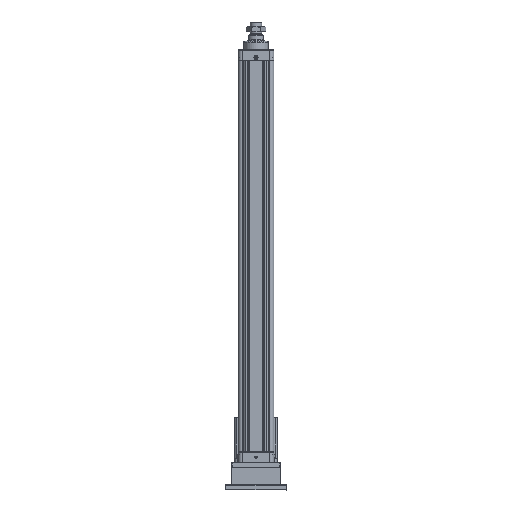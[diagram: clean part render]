
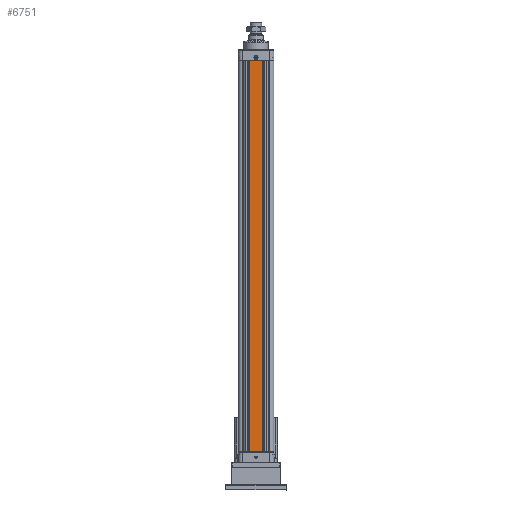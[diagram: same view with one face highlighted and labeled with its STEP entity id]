
A CAD part, top view. The second image highlights one B-rep face of the part: STEP entity #6751.
In plain terms, the highlighted planar face has unit normal (0, 0, 1).
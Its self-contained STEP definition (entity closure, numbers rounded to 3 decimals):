
#3271=DIRECTION('',(1.,0.,0.));
#3272=VECTOR('',#3271,38.8);
#3273=CARTESIAN_POINT('',(-19.4,-604.,55.));
#3274=LINE('',#3273,#3272);
#3779=DIRECTION('',(1.,0.,0.));
#3780=VECTOR('',#3779,38.8);
#3781=CARTESIAN_POINT('',(-19.4,604.,55.));
#3782=LINE('',#3781,#3780);
#4285=DIRECTION('',(0.,1.,0.));
#4286=VECTOR('',#4285,1208.);
#4287=CARTESIAN_POINT('',(-19.4,-604.,55.));
#4288=LINE('',#4287,#4286);
#4289=DIRECTION('',(0.,1.,0.));
#4290=VECTOR('',#4289,1208.);
#4291=CARTESIAN_POINT('',(19.4,-604.,55.));
#4292=LINE('',#4291,#4290);
#5457=CARTESIAN_POINT('',(-19.4,-604.,55.));
#5459=VERTEX_POINT('',#5457);
#5473=CARTESIAN_POINT('',(19.4,-604.,55.));
#5474=VERTEX_POINT('',#5473);
#5489=CARTESIAN_POINT('',(-19.4,604.,55.));
#5491=VERTEX_POINT('',#5489);
#5505=CARTESIAN_POINT('',(19.4,604.,55.));
#5506=VERTEX_POINT('',#5505);
#6738=CARTESIAN_POINT('',(-55.,-604.,55.));
#6739=DIRECTION('',(0.,0.,1.));
#6740=DIRECTION('',(1.,0.,0.));
#6741=AXIS2_PLACEMENT_3D('',#6738,#6739,#6740);
#6742=PLANE('',#6741);
#6744=ORIENTED_EDGE('',*,*,#6743,.T.);
#6745=ORIENTED_EDGE('',*,*,#6313,.T.);
#6747=ORIENTED_EDGE('',*,*,#6746,.F.);
#6748=ORIENTED_EDGE('',*,*,#5920,.F.);
#6749=EDGE_LOOP('',(#6744,#6745,#6747,#6748));
#6750=FACE_OUTER_BOUND('',#6749,.F.);
#6751=ADVANCED_FACE('',(#6750),#6742,.T.);
#5920=EDGE_CURVE('',#5459,#5474,#3274,.T.);
#6313=EDGE_CURVE('',#5491,#5506,#3782,.T.);
#6743=EDGE_CURVE('',#5459,#5491,#4288,.T.);
#6746=EDGE_CURVE('',#5474,#5506,#4292,.T.);
